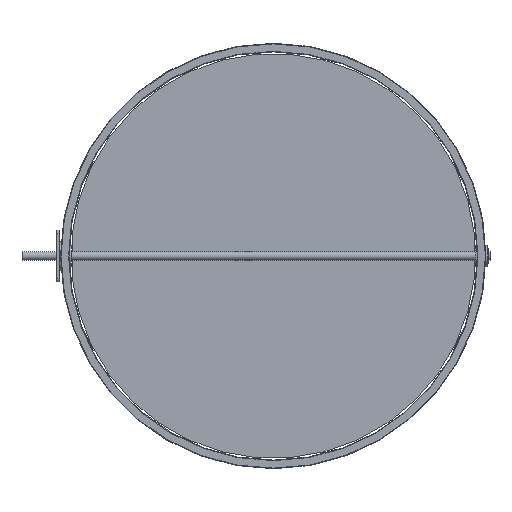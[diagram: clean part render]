
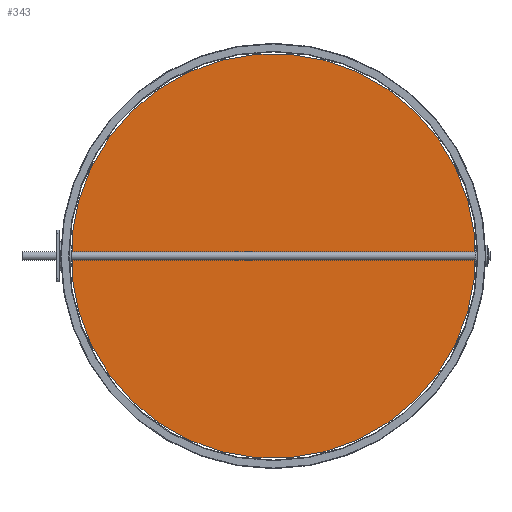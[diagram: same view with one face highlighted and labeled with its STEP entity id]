
A CAD part, left-side view. The second image highlights one B-rep face of the part: STEP entity #343.
In plain terms, the highlighted planar face has unit normal (-1, 0, 0).
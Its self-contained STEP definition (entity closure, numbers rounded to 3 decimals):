
#137=FACE_BOUND('',#451,.T.);
#138=FACE_BOUND('',#452,.T.);
#139=FACE_BOUND('',#453,.T.);
#140=FACE_BOUND('',#454,.T.);
#141=FACE_BOUND('',#455,.T.);
#142=FACE_BOUND('',#456,.T.);
#143=FACE_BOUND('',#457,.T.);
#144=FACE_BOUND('',#458,.T.);
#269=CIRCLE('',#968,352.);
#270=CIRCLE('',#971,3.05);
#272=CIRCLE('',#974,3.05);
#274=CIRCLE('',#977,3.05);
#276=CIRCLE('',#980,3.05);
#278=CIRCLE('',#983,3.05);
#280=CIRCLE('',#986,3.05);
#283=CIRCLE('',#990,352.);
#284=CIRCLE('',#992,3.05);
#343=ADVANCED_FACE('',(#137,#138,#139,#140,#141,#142,#143,#144),#397,.T.);
#397=PLANE('',#995);
#451=EDGE_LOOP('',(#591,#592,#593,#594));
#452=EDGE_LOOP('',(#595));
#453=EDGE_LOOP('',(#596));
#454=EDGE_LOOP('',(#597));
#455=EDGE_LOOP('',(#598));
#456=EDGE_LOOP('',(#599));
#457=EDGE_LOOP('',(#600));
#458=EDGE_LOOP('',(#601));
#591=ORIENTED_EDGE('',*,*,#848,.T.);
#592=ORIENTED_EDGE('',*,*,#827,.T.);
#593=ORIENTED_EDGE('',*,*,#831,.T.);
#594=ORIENTED_EDGE('',*,*,#834,.T.);
#595=ORIENTED_EDGE('',*,*,#845,.T.);
#596=ORIENTED_EDGE('',*,*,#843,.F.);
#597=ORIENTED_EDGE('',*,*,#841,.F.);
#598=ORIENTED_EDGE('',*,*,#839,.F.);
#599=ORIENTED_EDGE('',*,*,#837,.F.);
#600=ORIENTED_EDGE('',*,*,#835,.F.);
#601=ORIENTED_EDGE('',*,*,#849,.F.);
#747=VERTEX_POINT('',#1378);
#748=VERTEX_POINT('',#1380);
#750=VERTEX_POINT('',#1386);
#752=VERTEX_POINT('',#1392);
#753=VERTEX_POINT('',#1396);
#755=VERTEX_POINT('',#1401);
#757=VERTEX_POINT('',#1406);
#759=VERTEX_POINT('',#1411);
#761=VERTEX_POINT('',#1416);
#763=VERTEX_POINT('',#1421);
#765=VERTEX_POINT('',#1429);
#827=EDGE_CURVE('',#748,#747,#919,.T.);
#831=EDGE_CURVE('',#747,#750,#269,.T.);
#834=EDGE_CURVE('',#750,#752,#924,.T.);
#835=EDGE_CURVE('',#753,#753,#270,.T.);
#837=EDGE_CURVE('',#755,#755,#272,.T.);
#839=EDGE_CURVE('',#757,#757,#274,.T.);
#841=EDGE_CURVE('',#759,#759,#276,.T.);
#843=EDGE_CURVE('',#761,#761,#278,.T.);
#845=EDGE_CURVE('',#763,#763,#280,.T.);
#848=EDGE_CURVE('',#752,#748,#283,.T.);
#849=EDGE_CURVE('',#765,#765,#284,.T.);
#919=LINE('',#1379,#943);
#924=LINE('',#1393,#948);
#943=VECTOR('',#1097,1.);
#948=VECTOR('',#1110,1.);
#968=AXIS2_PLACEMENT_3D('',#1387,#1104,#1105);
#971=AXIS2_PLACEMENT_3D('',#1395,#1113,#1114);
#974=AXIS2_PLACEMENT_3D('',#1400,#1119,#1120);
#977=AXIS2_PLACEMENT_3D('',#1405,#1125,#1126);
#980=AXIS2_PLACEMENT_3D('',#1410,#1131,#1132);
#983=AXIS2_PLACEMENT_3D('',#1415,#1137,#1138);
#986=AXIS2_PLACEMENT_3D('',#1420,#1143,#1144);
#990=AXIS2_PLACEMENT_3D('',#1426,#1151,#1152);
#992=AXIS2_PLACEMENT_3D('',#1428,#1155,#1156);
#995=AXIS2_PLACEMENT_3D('',#1433,#1161,#1162);
#1097=DIRECTION('',(0.,0.,1.));
#1104=DIRECTION('',(-1.,0.,0.));
#1105=DIRECTION('',(0.,0.,1.));
#1110=DIRECTION('',(0.,0.,-1.));
#1113=DIRECTION('',(-1.,0.,0.));
#1114=DIRECTION('',(0.,0.,1.));
#1119=DIRECTION('',(-1.,0.,0.));
#1120=DIRECTION('',(0.,0.,1.));
#1125=DIRECTION('',(-1.,0.,0.));
#1126=DIRECTION('',(0.,0.,1.));
#1131=DIRECTION('',(-1.,0.,0.));
#1132=DIRECTION('',(0.,0.,1.));
#1137=DIRECTION('',(-1.,0.,0.));
#1138=DIRECTION('',(0.,0.,1.));
#1143=DIRECTION('',(1.,0.,0.));
#1144=DIRECTION('',(0.,0.,1.));
#1151=DIRECTION('',(-1.,0.,0.));
#1152=DIRECTION('',(0.,0.,1.));
#1155=DIRECTION('',(-1.,0.,0.));
#1156=DIRECTION('',(0.,0.,1.));
#1161=DIRECTION('',(-1.,0.,0.));
#1162=DIRECTION('',(0.,0.,1.));
#1378=CARTESIAN_POINT('',(-0.7,-459.,162.47));
#1379=CARTESIAN_POINT('',(-0.7,-459.,87.53));
#1380=CARTESIAN_POINT('',(-0.7,-459.,87.53));
#1386=CARTESIAN_POINT('',(-0.7,241.,162.47));
#1387=CARTESIAN_POINT('',(-0.7,-109.,125.));
#1392=CARTESIAN_POINT('',(-0.7,241.,87.53));
#1393=CARTESIAN_POINT('',(-0.7,241.,162.47));
#1395=CARTESIAN_POINT('',(-0.7,196.,125.));
#1396=CARTESIAN_POINT('',(-0.7,196.,128.05));
#1400=CARTESIAN_POINT('',(-0.7,-414.,125.));
#1401=CARTESIAN_POINT('',(-0.7,-414.,128.05));
#1405=CARTESIAN_POINT('',(-0.7,46.,125.));
#1406=CARTESIAN_POINT('',(-0.7,46.,128.05));
#1410=CARTESIAN_POINT('',(-0.7,-264.,125.));
#1411=CARTESIAN_POINT('',(-0.7,-264.,128.05));
#1415=CARTESIAN_POINT('',(-0.7,-109.,125.));
#1416=CARTESIAN_POINT('',(-0.7,-109.,128.05));
#1420=CARTESIAN_POINT('',(-0.7,-439.,125.));
#1421=CARTESIAN_POINT('',(-0.7,-439.,128.05));
#1426=CARTESIAN_POINT('',(-0.7,-109.,125.));
#1428=CARTESIAN_POINT('',(-0.7,221.,125.));
#1429=CARTESIAN_POINT('',(-0.7,221.,128.05));
#1433=CARTESIAN_POINT('',(-0.7,-109.,125.));
